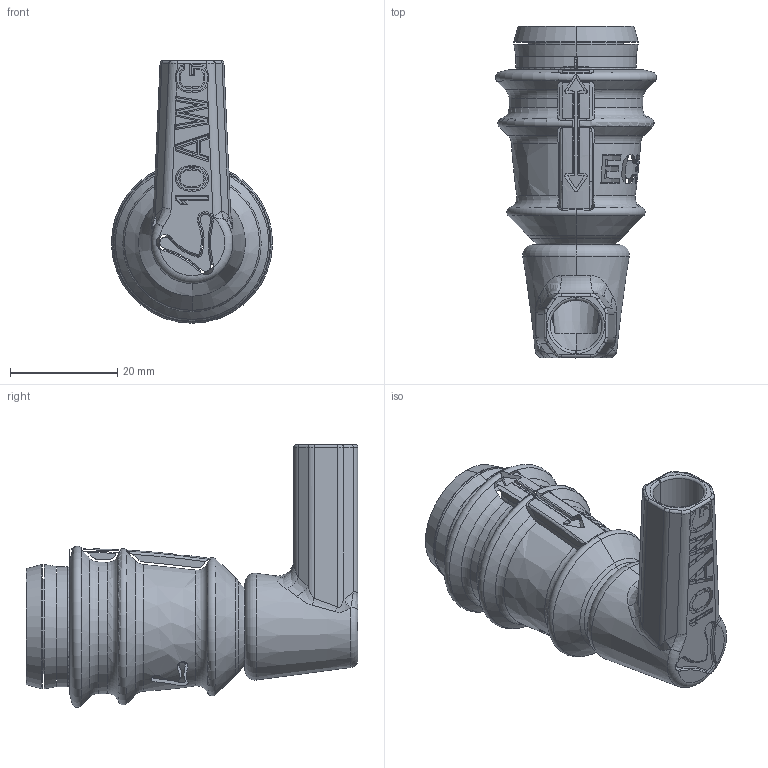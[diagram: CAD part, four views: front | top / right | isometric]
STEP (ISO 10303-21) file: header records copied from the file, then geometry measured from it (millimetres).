
FILE_DESCRIPTION((''),'2;1');
FILE_NAME('LCN-EC5X1-INLF_ASM','2025-08-24T13:03:00',('Neil'),(''),'CREO PARAMETRIC BY PTC INC, 2023134','CREO PARAMETRIC BY PTC INC, 2023134','');
FILE_SCHEMA(('CONFIG_CONTROL_DESIGN'));
Length unit declared in the file: millimetre
Products named in the file (1): LCN-EC5X1-INLF_ASM
Bounding box: 30.1 x 62.01 x 49.05 mm (x, y, z)
Surface area: 8632 mm2 (no closed solid volume)
Topology: 0 solids, 24 shells, 155 faces, 894 edges, 751 vertices
Faces by surface type: torus 45, bspline 37, plane 31, cylinder 25, cone 17
Entity records: 13405 total; most frequent: CARTESIAN_POINT 7456, ORIENTED_EDGE 1124, DIRECTION 981, EDGE_CURVE 894, VERTEX_POINT 751, B_SPLINE_CURVE_WITH_KNOTS 372, AXIS2_PLACEMENT_3D 340, VECTOR 301
